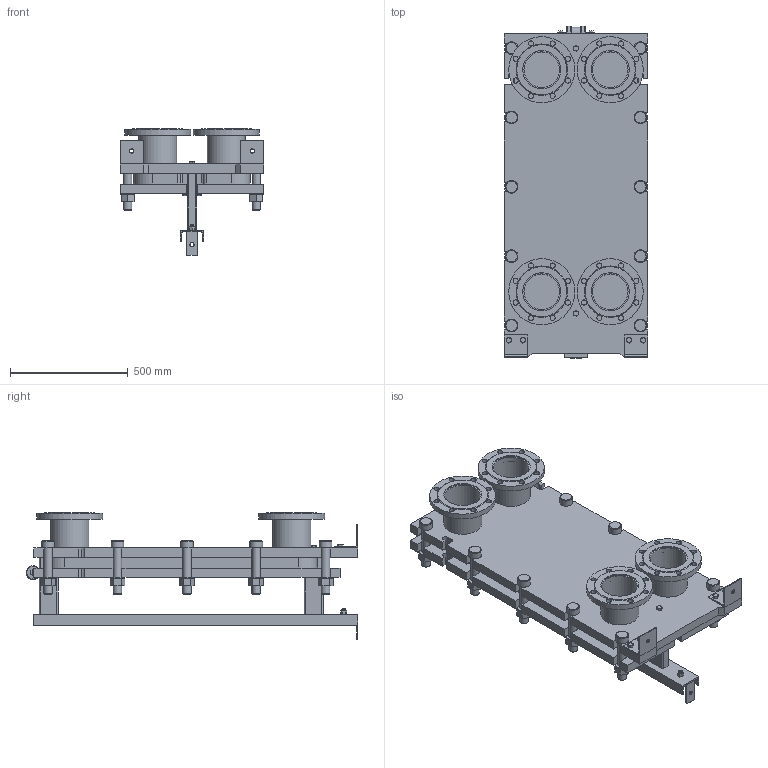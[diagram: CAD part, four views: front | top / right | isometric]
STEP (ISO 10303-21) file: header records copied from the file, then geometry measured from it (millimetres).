
FILE_DESCRIPTION(/* description */ (''),/* implementation_level */ '2;1');
FILE_NAME(/* name */ 'C:\Users\zhuro\Desktop\ENCO\TO\ЭН-041\ЭН-0,5-041-13-1.stp',/* time_stamp */ '2022-06-06T10:48:57+03:00',/* author */ ('zhuro'),/* organization */ (''),/* preprocessor_version */ 'ST-DEVELOPER v18.1',/* originating_system */ 'Autodesk Inventor 2022',/* authorisation */ '');
FILE_SCHEMA (('AUTOMOTIVE_DESIGN { 1 0 10303 214 3 1 1 }'));
Length unit declared in the file: millimetre
Products named in the file (1): ЭН-0,5-041-13-1
Bounding box: 610 x 1406.5 x 537.5 mm (x, y, z)
Volume: 99584751.2 mm3; surface area: 7106232.5 mm2
Topology: 52 solids, 52 shells, 711 faces, 1696 edges, 1094 vertices
Faces by surface type: plane 487, cylinder 177, cone 41, torus 6
Full cylindrical faces by diameter (mm): 8 x4, 10 x2, 16 x8, 18 x3, 22 x32, 36 x24, 50 x1, 54 x10, 60 x12, 151 x4, 161 x8, 280 x4
Entity records: 22667 total; most frequent: CARTESIAN_POINT 5230, DIRECTION 3644, ORIENTED_EDGE 3392, EDGE_CURVE 1696, AXIS2_PLACEMENT_3D 1272, LINE 1100, VECTOR 1100, VERTEX_POINT 1094
